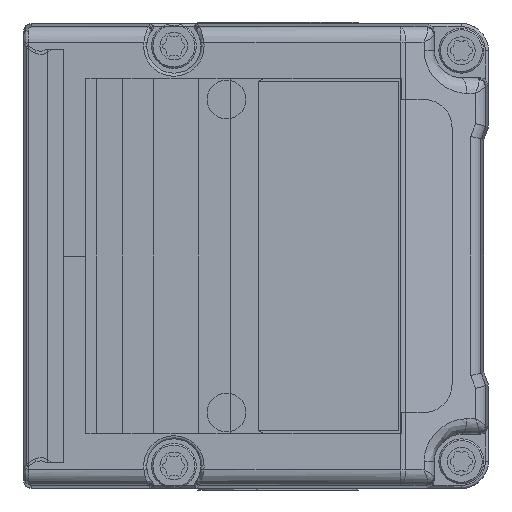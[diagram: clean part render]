
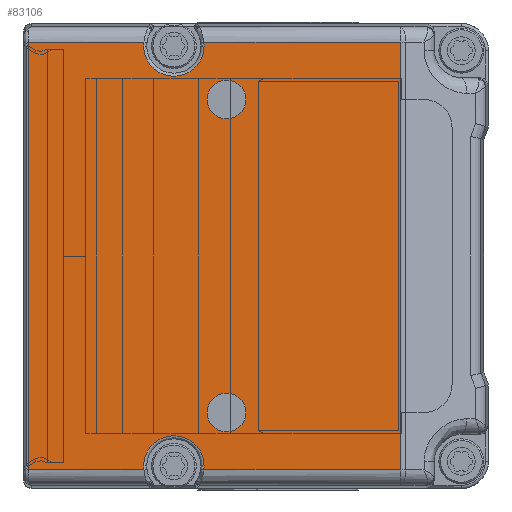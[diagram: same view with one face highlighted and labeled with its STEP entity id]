
A CAD part, left-side view. The second image highlights one B-rep face of the part: STEP entity #83106.
In plain terms, the highlighted planar face has unit normal (-1, 0, 0).
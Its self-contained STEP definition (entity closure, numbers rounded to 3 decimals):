
#78991=CARTESIAN_POINT('',(-30.,16.9,10.1));
#78992=DIRECTION('',(1.,0.,0.));
#78993=DIRECTION('',(0.,0.,1.));
#78994=AXIS2_PLACEMENT_3D('',#78991,#78992,#78993);
#79010=CARTESIAN_POINT('',(-30.,16.9,10.1));
#79011=DIRECTION('',(1.,0.,0.));
#79012=DIRECTION('',(0.,0.,-1.));
#79013=AXIS2_PLACEMENT_3D('',#79010,#79011,#79012);
#79019=DIRECTION('',(0.,-1.,0.));
#79020=VECTOR('',#79019,7.467);
#79021=CARTESIAN_POINT('',(-30.,29.7,13.804));
#79022=LINE('',#79021,#79020);
#79023=CARTESIAN_POINT('',(-30.,20.3,13.55));
#79024=DIRECTION('',(-1.,0.,0.));
#79025=DIRECTION('',(0.,0.991,0.13));
#79026=AXIS2_PLACEMENT_3D('',#79023,#79024,#79025);
#79028=CARTESIAN_POINT('',(-30.,20.3,13.55));
#79029=DIRECTION('',(-1.,0.,0.));
#79030=DIRECTION('',(0.,1.,0.));
#79031=AXIS2_PLACEMENT_3D('',#79028,#79029,#79030);
#79033=CARTESIAN_POINT('',(-30.,20.3,13.55));
#79034=DIRECTION('',(-1.,0.,0.));
#79035=DIRECTION('',(0.,-1.,0.));
#79036=AXIS2_PLACEMENT_3D('',#79033,#79034,#79035);
#79038=DIRECTION('',(0.,-1.,0.));
#79039=VECTOR('',#79038,12.69);
#79040=CARTESIAN_POINT('',(-30.,18.367,13.804));
#79041=LINE('',#79040,#79039);
#79042=DIRECTION('',(0.,0.,-1.));
#79043=VECTOR('',#79042,27.608);
#79044=CARTESIAN_POINT('',(-30.,5.676,13.804));
#79045=LINE('',#79044,#79043);
#79046=DIRECTION('',(0.,1.,0.));
#79047=VECTOR('',#79046,12.69);
#79048=CARTESIAN_POINT('',(-30.,5.676,-13.804));
#79049=LINE('',#79048,#79047);
#79050=CARTESIAN_POINT('',(-30.,20.3,-13.55));
#79051=DIRECTION('',(-1.,0.,0.));
#79052=DIRECTION('',(0.,-0.991,-0.13));
#79053=AXIS2_PLACEMENT_3D('',#79050,#79051,#79052);
#79055=CARTESIAN_POINT('',(-30.,20.3,-13.55));
#79056=DIRECTION('',(-1.,0.,0.));
#79057=DIRECTION('',(0.,-1.,0.));
#79058=AXIS2_PLACEMENT_3D('',#79055,#79056,#79057);
#79060=CARTESIAN_POINT('',(-30.,20.3,-13.55));
#79061=DIRECTION('',(-1.,0.,0.));
#79062=DIRECTION('',(0.,1.,0.));
#79063=AXIS2_PLACEMENT_3D('',#79060,#79061,#79062);
#79065=DIRECTION('',(0.,1.,0.));
#79066=VECTOR('',#79065,7.467);
#79067=CARTESIAN_POINT('',(-30.,22.233,-13.804));
#79068=LINE('',#79067,#79066);
#79069=DIRECTION('',(0.,0.,1.));
#79070=VECTOR('',#79069,27.608);
#79071=CARTESIAN_POINT('',(-30.,29.7,-13.804));
#79072=LINE('',#79071,#79070);
#82588=CARTESIAN_POINT('',(-30.,16.9,-10.1));
#82589=DIRECTION('',(1.,0.,0.));
#82590=DIRECTION('',(0.,0.,-1.));
#82591=AXIS2_PLACEMENT_3D('',#82588,#82589,#82590);
#82597=CARTESIAN_POINT('',(-30.,16.9,-10.1));
#82598=DIRECTION('',(1.,0.,0.));
#82599=DIRECTION('',(0.,0.,1.));
#82600=AXIS2_PLACEMENT_3D('',#82597,#82598,#82599);
#82624=CARTESIAN_POINT('',(-30.,18.35,-13.55));
#82625=CARTESIAN_POINT('',(-30.,22.25,-13.55));
#82626=VERTEX_POINT('',#82624);
#82627=VERTEX_POINT('',#82625);
#82628=CARTESIAN_POINT('',(-30.,18.367,-13.804));
#82629=VERTEX_POINT('',#82628);
#82630=CARTESIAN_POINT('',(-30.,22.233,13.804));
#82631=CARTESIAN_POINT('',(-30.,22.25,13.55));
#82632=VERTEX_POINT('',#82630);
#82633=VERTEX_POINT('',#82631);
#82665=CARTESIAN_POINT('',(-30.,29.7,13.804));
#82666=VERTEX_POINT('',#82665);
#82667=CARTESIAN_POINT('',(-30.,16.9,8.85));
#82668=CARTESIAN_POINT('',(-30.,16.9,11.35));
#82669=VERTEX_POINT('',#82667);
#82670=VERTEX_POINT('',#82668);
#82671=CARTESIAN_POINT('',(-30.,16.9,-11.35));
#82672=CARTESIAN_POINT('',(-30.,16.9,-8.85));
#82673=VERTEX_POINT('',#82671);
#82674=VERTEX_POINT('',#82672);
#82875=CARTESIAN_POINT('',(-30.,18.367,13.804));
#82876=CARTESIAN_POINT('',(-30.,5.676,13.804));
#82877=VERTEX_POINT('',#82875);
#82878=VERTEX_POINT('',#82876);
#82882=CARTESIAN_POINT('',(-30.,29.7,-13.804));
#82884=VERTEX_POINT('',#82882);
#82887=CARTESIAN_POINT('',(-30.,18.35,13.55));
#82889=VERTEX_POINT('',#82887);
#82908=CARTESIAN_POINT('',(-30.,5.676,-13.804));
#82909=VERTEX_POINT('',#82908);
#82959=CARTESIAN_POINT('',(-30.,22.233,-13.804));
#82960=VERTEX_POINT('',#82959);
#83065=CARTESIAN_POINT('',(-30.,30.,-15.));
#83066=DIRECTION('',(-1.,0.,0.));
#83067=DIRECTION('',(0.,-1.,0.));
#83068=AXIS2_PLACEMENT_3D('',#83065,#83066,#83067);
#83069=PLANE('',#83068);
#83071=ORIENTED_EDGE('',*,*,#83070,.T.);
#83073=ORIENTED_EDGE('',*,*,#83072,.T.);
#83075=ORIENTED_EDGE('',*,*,#83074,.T.);
#83077=ORIENTED_EDGE('',*,*,#83076,.T.);
#83079=ORIENTED_EDGE('',*,*,#83078,.T.);
#83081=ORIENTED_EDGE('',*,*,#83080,.T.);
#83083=ORIENTED_EDGE('',*,*,#83082,.T.);
#83085=ORIENTED_EDGE('',*,*,#83084,.T.);
#83087=ORIENTED_EDGE('',*,*,#83086,.T.);
#83089=ORIENTED_EDGE('',*,*,#83088,.T.);
#83091=ORIENTED_EDGE('',*,*,#83090,.T.);
#83093=ORIENTED_EDGE('',*,*,#83092,.T.);
#83094=EDGE_LOOP('',(#83071,#83073,#83075,#83077,#83079,#83081,#83083,#83085,
#83087,#83089,#83091,#83093));
#83095=FACE_OUTER_BOUND('',#83094,.F.);
#83096=ORIENTED_EDGE('',*,*,#83058,.F.);
#83097=ORIENTED_EDGE('',*,*,#83034,.F.);
#83098=EDGE_LOOP('',(#83096,#83097));
#83099=FACE_BOUND('',#83098,.F.);
#83101=ORIENTED_EDGE('',*,*,#83100,.F.);
#83103=ORIENTED_EDGE('',*,*,#83102,.F.);
#83104=EDGE_LOOP('',(#83101,#83103));
#83105=FACE_BOUND('',#83104,.F.);
#83106=ADVANCED_FACE('',(#83095,#83099,#83105),#83069,.T.);
#78995=CIRCLE('',#78994,1.25);
#79014=CIRCLE('',#79013,1.25);
#79027=CIRCLE('',#79026,1.95);
#79032=CIRCLE('',#79031,1.95);
#79037=CIRCLE('',#79036,1.95);
#79054=CIRCLE('',#79053,1.95);
#79059=CIRCLE('',#79058,1.95);
#79064=CIRCLE('',#79063,1.95);
#82592=CIRCLE('',#82591,1.25);
#82601=CIRCLE('',#82600,1.25);
#83034=EDGE_CURVE('',#82670,#82669,#78995,.T.);
#83058=EDGE_CURVE('',#82669,#82670,#79014,.T.);
#83070=EDGE_CURVE('',#82666,#82632,#79022,.T.);
#83072=EDGE_CURVE('',#82632,#82633,#79027,.T.);
#83074=EDGE_CURVE('',#82633,#82889,#79032,.T.);
#83076=EDGE_CURVE('',#82889,#82877,#79037,.T.);
#83078=EDGE_CURVE('',#82877,#82878,#79041,.T.);
#83080=EDGE_CURVE('',#82878,#82909,#79045,.T.);
#83082=EDGE_CURVE('',#82909,#82629,#79049,.T.);
#83084=EDGE_CURVE('',#82629,#82626,#79054,.T.);
#83086=EDGE_CURVE('',#82626,#82627,#79059,.T.);
#83088=EDGE_CURVE('',#82627,#82960,#79064,.T.);
#83090=EDGE_CURVE('',#82960,#82884,#79068,.T.);
#83092=EDGE_CURVE('',#82884,#82666,#79072,.T.);
#83100=EDGE_CURVE('',#82673,#82674,#82592,.T.);
#83102=EDGE_CURVE('',#82674,#82673,#82601,.T.);
